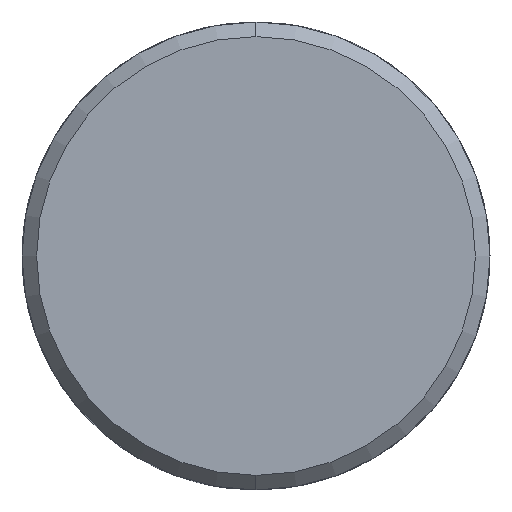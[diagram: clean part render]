
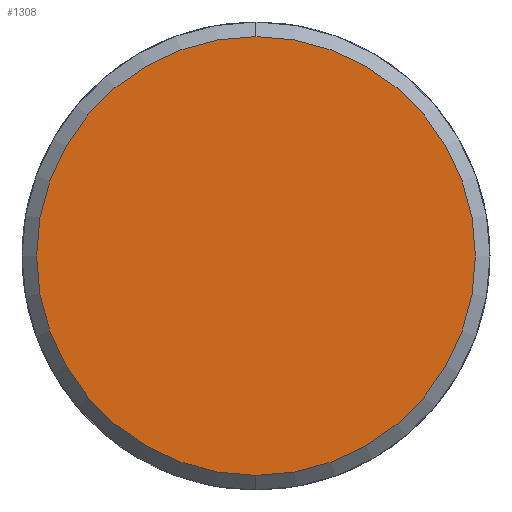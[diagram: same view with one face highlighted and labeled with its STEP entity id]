
A CAD part, left-side view. The second image highlights one B-rep face of the part: STEP entity #1308.
In plain terms, the highlighted planar face has unit normal (-1, 0, 0).
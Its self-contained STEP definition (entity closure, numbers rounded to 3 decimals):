
#264 = EDGE_CURVE ( 'NONE', #2282, #2614, #555, .T. ) ;
#395 = EDGE_CURVE ( 'NONE', #2614, #2282, #8963, .T. ) ;
#555 = CIRCLE ( 'NONE', #4572, 7.5 ) ;
#869 = AXIS2_PLACEMENT_3D ( 'NONE', #4835, #4832, #4827 ) ;
#1308 = ADVANCED_FACE ( 'NONE', ( #8040 ), #4880, .T. ) ;
#1948 = ORIENTED_EDGE ( 'NONE', *, *, #395, .F. ) ;
#2129 = DIRECTION ( 'NONE',  ( 0., 0., -1. ) ) ;
#2134 = DIRECTION ( 'NONE',  ( 1., 0., 0. ) ) ;
#2137 = CARTESIAN_POINT ( 'NONE',  ( 0., 0., 0. ) ) ;
#2202 = ORIENTED_EDGE ( 'NONE', *, *, #264, .F. ) ;
#2282 = VERTEX_POINT ( 'NONE', #3382 ) ;
#2374 = EDGE_LOOP ( 'NONE', ( #2202, #1948 ) ) ;
#2444 = DIRECTION ( 'NONE',  ( 0., 0., -1. ) ) ;
#2458 = DIRECTION ( 'NONE',  ( 1., 0., 0. ) ) ;
#2460 = CARTESIAN_POINT ( 'NONE',  ( 0., 0., 0. ) ) ;
#2614 = VERTEX_POINT ( 'NONE', #3349 ) ;
#3349 = CARTESIAN_POINT ( 'NONE',  ( 0., 0., 7.5 ) ) ;
#3382 = CARTESIAN_POINT ( 'NONE',  ( 0., 0., -7.5 ) ) ;
#3733 = AXIS2_PLACEMENT_3D ( 'NONE', #2137, #2134, #2129 ) ;
#4572 = AXIS2_PLACEMENT_3D ( 'NONE', #2460, #2458, #2444 ) ;
#4827 = DIRECTION ( 'NONE',  ( 0., 0., 1. ) ) ;
#4832 = DIRECTION ( 'NONE',  ( -1., 0., 0. ) ) ;
#4835 = CARTESIAN_POINT ( 'NONE',  ( 0., 0., 0. ) ) ;
#4880 = PLANE ( 'NONE',  #869 ) ;
#8040 = FACE_OUTER_BOUND ( 'NONE', #2374, .T. ) ;
#8963 = CIRCLE ( 'NONE', #3733, 7.5 ) ;
